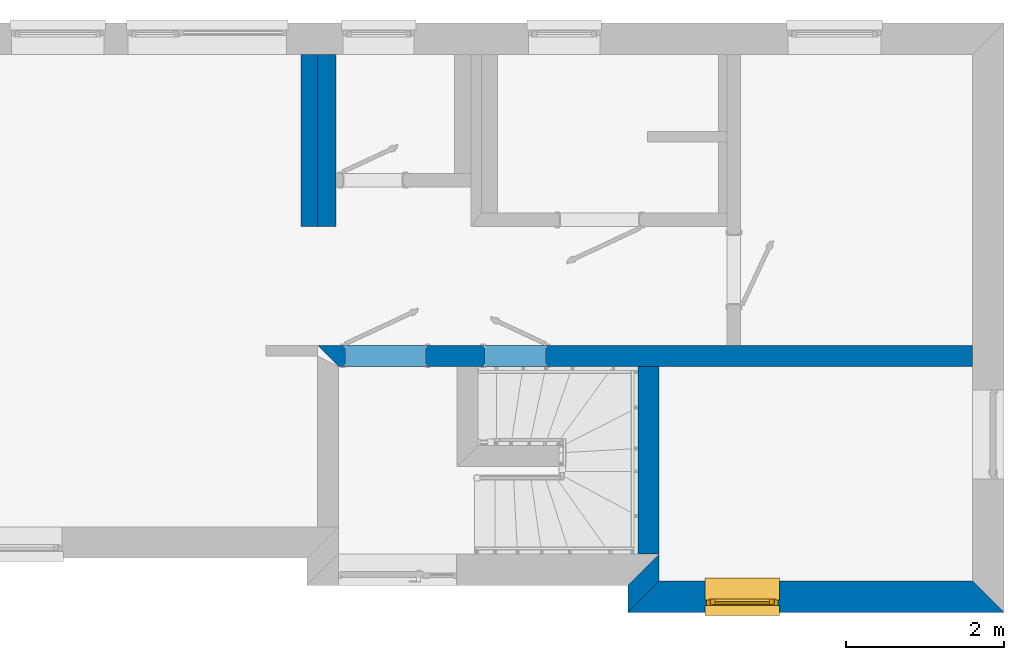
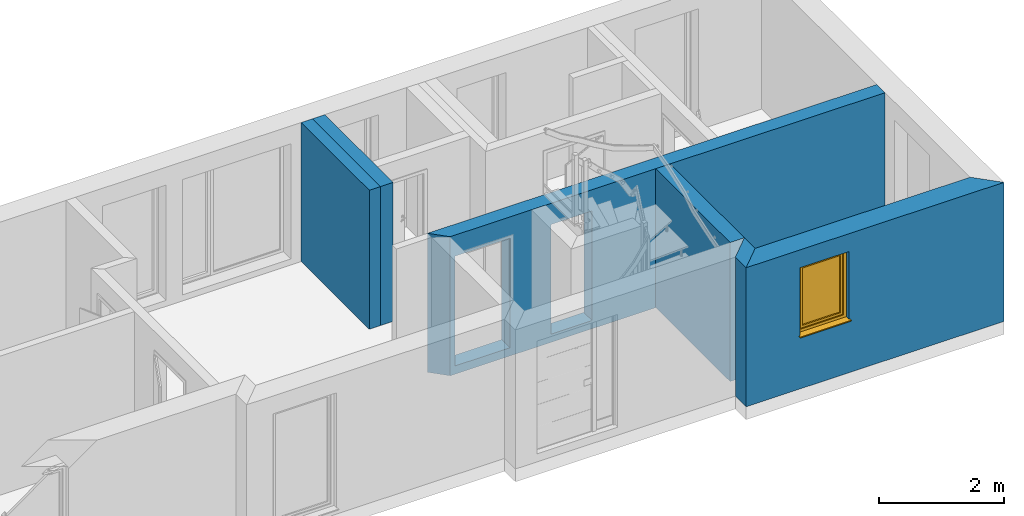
# One storey, part 5 of 13: 6 walls, 1 window, 3 openings.
"""IFC2X3 building model written with IfcOpenShell, lengths in millimetres."""

from ifc_helpers import new_model, si_unit, frame, origin_with_axes, place, context, project, spatial, faceted_brep, material, layer, layer_set, layer_usage, type_object, element, fill, save


model = new_model("IFC2X3")

# Units and contexts
model_context = context("Model", 3, world=origin_with_axes())
ifc_project = project(units=[si_unit("LENGTHUNIT", "METRE", prefix="MILLI")], contexts=[model_context])

# Site, building, storey
site_placement = place(None, origin_with_axes())
site = spatial("IfcSite", under=ifc_project, at=site_placement, Name="Site", CompositionType="ELEMENT")
building_placement = place(site_placement, origin_with_axes())
building = spatial("IfcBuilding", under=site, at=building_placement, Name="?", CompositionType="ELEMENT")
storey_placement = place(building_placement, origin_with_axes())
storey = spatial("IfcBuildingStorey", under=building, at=storey_placement, Name="Erdgeschoß", CompositionType="ELEMENT", Elevation=0.0)

# Wall, opening, window
ifc_material_1 = material(Name="Material_AW")
ifc_layer_1 = layer(ifc_material_1, 395.0, ventilated=False)
ifc_layer_set_1 = layer_set([ifc_layer_1], Name="MaterialLayerSet_AW")
ifc_layer_usage_1 = layer_usage(ifc_layer_set_1, "AXIS2", "NEGATIVE", 197.5)
wall_1_placement = place(storey_placement, frame((18102.5, -7242.5, 0.0), z_axis=(0.0, 0.0, 1.0), x_axis=(-1.0, 0.0, 0.0)))
wall_1 = element("IfcWall", 1, at=wall_1_placement, inside=storey, material=ifc_layer_usage_1, Name="AW-03", context=model_context, shape_type="Brep", body=[
    faceted_brep([(4157.49996012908, -197.5, 0.0), (4157.49996012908, -197.5, 2707.0), (197.5, -197.5, 2707.0), (197.5, -197.5, 0.0), (4552.49996012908, 197.5, 0.0), (4552.49996012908, 197.5, 150.0), (4552.49996012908, 197.5, 2707.0), (4157.49996012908, -197.5, 2707.0), (4157.49996012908, -197.5, 0.0), (-197.499034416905, 197.5, 0.0), (-197.499034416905, 197.5, 150.0), (4552.49996012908, 197.5, 150.0), (4552.49996012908, 197.5, 0.0), (-197.499034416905, 197.5, 150.0), (-197.499034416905, 197.5, 2707.0), (4552.49996012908, 197.5, 2707.0), (4552.49996012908, 197.5, 150.0), (197.5, -197.5, 0.0), (197.5, -197.5, 2707.0), (-197.499034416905, 197.5, 2707.0), (-197.499034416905, 197.5, 150.0), (-197.499034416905, 197.5, 0.0), (197.5, -197.5, 0.0), (-197.499034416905, 197.5, 0.0), (4552.49996012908, 197.5, 0.0), (4157.49996012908, -197.5, 0.0), (-197.499034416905, 197.5, 2707.0), (197.5, -197.5, 2707.0), (4157.49996012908, -197.5, 2707.0), (4552.49996012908, 197.5, 2707.0)], [[[0, 1, 2, 3]], [[4, 5, 6, 7, 8]], [[9, 10, 11, 12]], [[13, 14, 15, 16]], [[17, 18, 19, 20, 21]], [[22, 23, 24, 25]], [[26, 27, 28, 29]]]),
])
opening_1_placement = place(wall_1_placement, frame((2657.5, 0.0, 1040.0), z_axis=(0.0, 0.0, 1.0), x_axis=(1.0, 0.0, 0.0)))
opening_1 = element("IfcOpeningElement", 2, at=opening_1_placement, cuts=wall_1, Name="AW-03|FE06", context=model_context, shape_type="Brep", body=[
    faceted_brep([(0.0, 207.5, 0.0), (0.0, 207.5, 1320.0), (900.0, 207.5, 1320.0), (900.0, 207.5, 0.0), (0.0, -207.5, 0.0), (0.0, -207.5, 1320.0), (0.0, 207.5, 1320.0), (0.0, 207.5, 0.0), (900.0, -207.5, 0.0), (0.0, -207.5, 0.0), (0.0, 207.5, 0.0), (900.0, 207.5, 0.0), (900.0, -207.5, 1320.0), (900.0, -207.5, 0.0), (900.0, 207.5, 0.0), (900.0, 207.5, 1320.0), (0.0, -207.5, 1320.0), (900.0, -207.5, 1320.0), (900.0, 207.5, 1320.0), (0.0, 207.5, 1320.0), (0.0, -207.5, 0.0), (900.0, -207.5, 0.0), (900.0, -207.5, 1320.0), (0.0, -207.5, 1320.0)], [[[0, 1, 2, 3]], [[4, 5, 6, 7]], [[8, 9, 10, 11]], [[12, 13, 14, 15]], [[16, 17, 18, 19]], [[20, 21, 22, 23]]]),
])
window_style = type_object("IfcWindowStyle", Name="FE06", ConstructionType="NOTDEFINED", OperationType="SINGLE_PANEL", ParameterTakesPrecedence=True, Sizeable=False)
window_placement = place(opening_1_placement, frame((900.0, 77.5, 0.0), z_axis=(0.0, 0.0, 1.0), x_axis=(-1.0, 0.0, 0.0)))
window = element("IfcWindow", 3, at=window_placement, inside=storey, type_object=window_style, Name="FE06", OverallHeight=1320.0, OverallWidth=900.0, context=model_context, shape_type="Brep", body=[
    faceted_brep([(0.0, -36.0, 0.0), (900.0, -36.0, 0.0), (885.0, -36.0, 15.0), (15.0, -36.0, 15.0), (15.0, 36.0, 15.0), (885.0, 36.0, 15.0), (900.0, 36.0, 0.0), (0.0, 36.0, 0.0), (0.0, 36.0, 0.0), (900.0, 36.0, 0.0), (900.0, -36.0, 0.0), (0.0, -36.0, 0.0), (900.0, -36.0, 0.0), (900.0, -36.0, 1320.0), (885.0, -36.0, 1305.0), (885.0, -36.0, 15.0), (885.0, 36.0, 14.999755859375), (885.0, 36.0, 1304.99975585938), (900.0, 36.0, 1319.99975585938), (900.0, 36.0, -0.000244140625), (900.0, 36.0, 0.0), (900.0, 36.0, 1320.0), (900.0, -36.0, 1320.0), (900.0, -36.0, 0.0), (900.0, -36.0, 1320.0), (0.0, -36.0, 1320.0), (15.0, -36.0, 1305.0), (885.0, -36.0, 1305.0), (885.0, 36.0, 1305.0), (15.0, 36.0, 1305.0), (0.0, 36.0, 1320.0), (900.0, 36.0, 1320.0), (900.0, 36.0, 1320.0), (0.0, 36.0, 1320.0), (0.0, -36.0, 1320.0), (900.0, -36.0, 1320.0), (0.0, -36.0, 1320.0), (0.0, -36.0, 0.0), (15.0, -36.0, 15.0), (15.0, -36.0, 1305.0), (15.0, 36.0, 1305.00024414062), (15.0, 36.0, 15.000244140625), (0.0, 36.0, 0.000244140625), (0.0, 36.0, 1320.00024414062), (0.0, 36.0, 1320.0), (0.0, 36.0, 0.0), (0.0, -36.0, 0.0), (0.0, -36.0, 1320.0), (885.0, 36.0, 15.0), (15.0, 36.0, 15.0), (43.0, 36.0, 43.0), (857.0, 36.0, 43.0), (857.0, 36.0, 43.0), (43.0, 36.0, 43.0), (43.0, -21.0, 43.0), (857.0, -21.0, 43.0), (857.000000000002, -21.0, 43.0), (43.0000000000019, -21.0, 43.0), (60.0000000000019, -21.0004882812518, 60.0000000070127), (840.000000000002, -21.0004882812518, 60.0000000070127), (840.0009765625, -21.0, 60.0), (60.0009765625, -21.0, 60.0), (60.0009765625, -25.0, 60.0), (840.0009765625, -25.0, 60.0), (840.0009765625, -25.0, 60.0), (60.0009765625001, -25.0, 60.0), (53.0009765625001, -36.0014646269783, 52.9991454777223), (847.0009765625, -36.0014646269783, 52.9991454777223), (847.0, -36.0, 53.0), (53.0, -36.0, 53.0), (15.0, -36.0, 15.0), (885.0, -36.0, 15.0), (885.0, 36.0, 1305.0), (885.0, 36.0, 15.0), (857.0, 36.0, 43.0), (857.0, 36.0, 1277.0), (857.0, 36.0, 1277.00024414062), (857.0, 36.0, 43.000244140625), (857.0, -21.0, 43.000244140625), (857.0, -21.0, 1277.00024414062), (857.0, -21.0, 1277.00024414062), (857.0, -21.0, 43.000244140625), (840.0, -21.0, 60.000244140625), (840.0, -21.0, 1260.00024414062), (840.0, -21.0, 1259.99926757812), (840.0, -21.0, 59.999267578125), (840.0, -25.0, 59.999267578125), (840.0, -25.0, 1259.99926757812), (840.0, -25.0, 1259.99926757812), (840.0, -25.0, 59.9992675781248), (847.001953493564, -36.0009766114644, 52.9992675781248), (847.001953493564, -36.0009766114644, 1266.99926757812), (847.0, -36.0, 1267.0), (847.0, -36.0, 53.0), (885.0, -36.0, 15.0), (885.0, -36.0, 1305.0), (15.0, 36.0, 1305.0), (885.0, 36.0, 1305.0), (857.0, 36.0, 1277.0), (43.0, 36.0, 1277.0), (43.0, 36.0, 1277.0), (857.0, 36.0, 1277.0), (857.0, -21.0, 1277.0), (43.0, -21.0, 1277.0), (43.0000000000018, -21.0, 1277.0), (857.000000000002, -21.0, 1277.0), (840.000000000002, -21.0004882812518, 1259.99999999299), (60.0000000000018, -21.0004882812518, 1259.99999999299), (59.9990234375, -21.0, 1260.0), (839.9990234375, -21.0, 1260.0), (839.9990234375, -25.0, 1260.0), (59.9990234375, -25.0, 1260.0), (59.9990234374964, -25.0, 1260.0), (839.999023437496, -25.0, 1260.0), (846.999023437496, -36.0014647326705, 1267.00097675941), (52.9990234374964, -36.0014647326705, 1267.00097675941), (53.0, -36.0, 1267.0), (847.0, -36.0, 1267.0), (885.0, -36.0, 1305.0), (15.0, -36.0, 1305.0), (15.0, 36.0, 15.0), (15.0, 36.0, 1305.0), (43.0, 36.0, 1277.0), (43.0, 36.0, 43.0), (43.0, 36.0, 43.0010986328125), (43.0, 36.0, 1277.0009765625), (43.0, -21.0, 1277.0009765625), (43.0, -21.0, 43.0010986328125), (43.0, -21.0, 43.0010986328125), (43.0, -21.0, 1277.0009765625), (60.0, -21.0, 1260.0009765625), (60.0, -21.0, 60.0010986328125), (60.0, -21.0, 60.000732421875), (60.0, -21.0, 1260.00073242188), (60.0009765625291, -25.0000001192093, 1260.00073242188), (60.0009765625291, -25.0000001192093, 60.000732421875), (60.0, -25.0, 60.000732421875), (60.0, -25.0, 1260.00073242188), (52.9990236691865, -36.0009765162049, 1267.00073242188), (52.9990236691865, -36.0009765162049, 53.000732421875), (53.0, -36.0, 53.0001220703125), (53.0, -36.0, 1267.0), (15.0, -36.0, 1305.0), (15.0, -36.0, 15.0001220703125), (867.0, 52.0, 33.0), (33.0, 52.0, 33.0), (96.0, 52.0, 96.0), (804.0, 52.0, 96.0), (804.0, 52.0, 96.0), (96.0, 52.0, 96.0), (110.0, 19.9985349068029, 110.000610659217), (790.0, 19.9985349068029, 110.000610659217), (789.999999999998, 20.0, 110.0), (109.999999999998, 20.0, 110.0), (102.999999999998, 19.9995117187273, 102.99999998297), (796.999999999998, 19.9995117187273, 102.99999998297), (797.0009765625, 20.0, 103.0), (103.0009765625, 20.0, 103.0), (103.0009765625, -4.0, 103.0), (797.0009765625, -4.0, 103.0), (797.0009765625, -4.0, 103.0), (103.0009765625, -4.0, 103.0), (110.0009765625, -4.0, 110.0), (790.0009765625, -4.0, 110.0), (790.000000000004, -3.9999999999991, 110.0), (110.000000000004, -3.9999999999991, 110.0), (102.000000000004, -21.0014648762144, 101.999511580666), (798.000000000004, -21.0014648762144, 101.999511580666), (798.0009765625, -21.0, 102.0), (102.0009765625, -21.0, 102.0), (51.0009765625, -21.0, 51.0), (849.0009765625, -21.0, 51.0), (849.0009765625, -21.0, 51.0), (51.0009765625, -21.0, 51.0), (51.0009765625, 36.0, 51.0), (849.0009765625, 36.0, 51.0), (849.0009765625, 36.0, 51.0), (51.0009765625, 36.0, 51.0), (33.0009765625, 36.0, 33.0), (867.0009765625, 36.0, 33.0), (867.0, 36.0, 33.0), (33.0, 36.0, 33.0), (33.0, 52.0, 33.0), (867.0, 52.0, 33.0), (867.0, 52.0, 1287.00024414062), (867.0, 52.0, 33.000244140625), (804.0, 52.0, 96.000244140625), (804.0, 52.0, 1224.00024414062), (804.0, 52.0, 1224.00024414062), (804.0, 52.0, 96.0002441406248), (789.999023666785, 19.9990226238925, 110.000244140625), (789.999023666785, 19.9990226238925, 1210.00024414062), (790.0, 20.0, 1210.00024414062), (790.0, 20.0, 110.000244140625), (797.0, 20.0, 103.000244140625), (797.0, 20.0, 1217.00024414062), (797.0, 20.0, 1216.99951171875), (797.0, 20.0, 102.99951171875), (796.999023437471, -4.00000001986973, 102.99951171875), (796.999023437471, -4.00000001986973, 1216.99951171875), (797.0, -4.0, 1216.99951171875), (797.0, -4.0, 102.99951171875), (790.0, -4.0, 109.99951171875), (790.0, -4.0, 1209.99951171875), (790.0, -4.0, 1210.00024414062), (790.0, -4.0, 110.000244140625), (798.001952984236, -21.0009765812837, 102.000244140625), (798.001952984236, -21.0009765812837, 1218.00024414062), (798.0, -21.0, 1217.99951171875), (798.0, -21.0, 101.99951171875), (849.0, -21.0, 50.99951171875), (849.0, -21.0, 1268.99951171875), (849.0, -21.0, 1268.99951171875), (849.0, -21.0, 50.9995117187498), (849.000976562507, 36.0000000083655, 50.9995117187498), (849.000976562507, 36.0000000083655, 1268.99951171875), (849.0, 36.0, 1268.99951171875), (849.0, 36.0, 50.99951171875), (867.0, 36.0, 32.99951171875), (867.0, 36.0, 1286.99951171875), (867.0, 36.0, 1287.00024414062), (867.0, 36.0, 33.000244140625), (867.0, 52.0, 33.000244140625), (867.0, 52.0, 1287.00024414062), (33.0, 52.0, 1287.0), (867.0, 52.0, 1287.0), (804.0, 52.0, 1224.0), (96.0, 52.0, 1224.0), (95.9999999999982, 52.0, 1224.0), (803.999999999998, 52.0, 1224.0), (789.999999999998, 19.9985360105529, 1209.99951201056), (109.999999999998, 19.9985360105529, 1209.99951201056), (110.0, 20.0, 1210.0), (790.0, 20.0, 1210.0), (797.0, 20.0, 1217.0), (103.0, 20.0, 1217.0), (102.9990234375, 20.0, 1217.0), (796.9990234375, 20.0, 1217.0), (796.9990234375, -4.0, 1217.0), (102.9990234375, -4.0, 1217.0), (102.9990234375, -4.0, 1217.0), (796.9990234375, -4.0, 1217.0), (789.9990234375, -4.0, 1210.0), (109.9990234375, -4.0, 1210.0), (110.000000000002, -4.0, 1210.0), (790.000000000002, -4.0, 1210.0), (798.000000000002, -21.0014648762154, 1218.00048841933), (102.000000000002, -21.0014648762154, 1218.00048841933), (101.9990234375, -21.0, 1218.0), (797.9990234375, -21.0, 1218.0), (848.9990234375, -21.0, 1269.0), (50.9990234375, -21.0, 1269.0), (50.9990234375, -21.0, 1269.0), (848.9990234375, -21.0, 1269.0), (848.9990234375, 36.0, 1269.0), (50.9990234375, 36.0, 1269.0), (50.9990234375, 36.0, 1269.0), (848.9990234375, 36.0, 1269.0), (866.9990234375, 36.0, 1287.0), (32.9990234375, 36.0, 1287.0), (33.0, 36.0, 1287.0), (867.0, 36.0, 1287.0), (867.0, 52.0, 1287.0), (33.0, 52.0, 1287.0), (33.0, 52.0, 33.0010986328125), (33.0, 52.0, 1287.0009765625), (96.0, 52.0, 1224.0009765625), (96.0, 52.0, 96.0010986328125), (96.0, 52.0, 95.9998779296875), (96.0, 52.0, 1224.0), (110.000976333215, 19.9990226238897, 1210.0), (110.000976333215, 19.9990226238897, 109.999877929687), (110.0, 20.0, 110.001098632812), (110.0, 20.0, 1210.0009765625), (103.0, 20.0, 1217.0009765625), (103.0, 20.0, 103.001098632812), (103.0, 20.0, 103.00048828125), (103.0, 20.0, 1217.00048828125), (103.0, -4.0, 1217.00048828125), (103.0, -4.0, 103.00048828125), (103.0, -4.0, 103.00048828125), (103.0, -4.0, 1217.00048828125), (110.0, -4.0, 1210.00048828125), (110.0, -4.0, 110.00048828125), (110.0, -4.0, 110.001098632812), (110.0, -4.0, 1210.0009765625), (101.999023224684, -21.0014648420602, 1218.0009765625), (101.999023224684, -21.0014648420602, 102.001098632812), (102.0, -21.0, 102.000610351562), (102.0, -21.0, 1218.00048828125), (51.0, -21.0, 1269.00048828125), (51.0, -21.0, 51.0006103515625), (51.0, -21.0, 51.00048828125), (51.0, -21.0, 1269.00048828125), (51.0, 36.0, 1269.00048828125), (51.0, 36.0, 51.00048828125), (51.0, 36.0, 51.00048828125), (51.0, 36.0, 1269.00048828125), (33.0, 36.0, 1287.00048828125), (33.0, 36.0, 33.00048828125), (33.0, 36.0, 33.0010986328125), (33.0, 36.0, 1287.0009765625), (33.0, 52.0, 1287.0009765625), (33.0, 52.0, 33.0010986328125), (110.0, 20.0, 110.0), (110.0, 20.0, 1210.0), (790.0, 20.0, 1210.0), (790.0, 20.0, 110.0), (110.0, -4.0, 110.0), (790.0, -4.0, 110.0), (790.0, -4.0, 1210.0), (110.0, -4.0, 1210.0), (-20.0, -36.0, 0.5), (-20.0, -160.0, 0.5), (920.0, -160.0, 0.5), (920.0, -36.0, 0.5), (-20.0, -36.0, -19.5), (-20.0, -36.0, 0.5), (920.0, -36.0, 0.5), (920.0, -36.0, -19.5), (-20.0, -160.0, -19.5), (-20.0, -36.0, -19.5), (920.0, -36.0, -19.5), (920.0, -160.0, -19.5), (-20.0, -160.0, 0.5), (-20.0, -160.0, -19.5), (920.0, -160.0, -19.5), (920.0, -160.0, 0.5), (-20.0, -160.0, -19.5), (-20.0, -160.0, 0.5), (-20.0, -36.0, 0.5), (-20.0, -36.0, -19.5), (920.0, -160.0, 0.5), (920.0, -160.0, -19.5), (920.0, -36.0, -19.5), (920.0, -36.0, 0.5), (-20.0, 36.0, -19.5), (-20.0, 315.0, -19.5), (920.0, 315.0, -19.5), (920.0, 36.0, -19.5), (-20.0, 36.0, 0.5), (-20.0, 36.0, -19.5), (920.0, 36.0, -19.5), (920.0, 36.0, 0.5), (-20.0, 315.0, 0.5), (-20.0, 36.0, 0.5), (920.0, 36.0, 0.5), (920.0, 315.0, 0.5), (-20.0, 315.0, -19.5), (-20.0, 315.0, 0.5), (920.0, 315.0, 0.5), (920.0, 315.0, -19.5), (-20.0, 315.0, 0.5), (-20.0, 315.0, -19.5), (-20.0, 36.0, -19.5), (-20.0, 36.0, 0.5), (920.0, 315.0, -19.5), (920.0, 315.0, 0.5), (920.0, 36.0, 0.5), (920.0, 36.0, -19.5)], [[[0, 1, 2, 3]], [[4, 5, 6, 7]], [[8, 9, 10, 11]], [[12, 13, 14, 15]], [[16, 17, 18, 19]], [[20, 21, 22, 23]], [[24, 25, 26, 27]], [[28, 29, 30, 31]], [[32, 33, 34, 35]], [[36, 37, 38, 39]], [[40, 41, 42, 43]], [[44, 45, 46, 47]], [[48, 49, 50, 51]], [[52, 53, 54, 55]], [[56, 57, 58, 59]], [[60, 61, 62, 63]], [[64, 65, 66, 67]], [[68, 69, 70, 71]], [[72, 73, 74, 75]], [[76, 77, 78, 79]], [[80, 81, 82, 83]], [[84, 85, 86, 87]], [[88, 89, 90, 91]], [[92, 93, 94, 95]], [[96, 97, 98, 99]], [[100, 101, 102, 103]], [[104, 105, 106, 107]], [[108, 109, 110, 111]], [[112, 113, 114, 115]], [[116, 117, 118, 119]], [[120, 121, 122, 123]], [[124, 125, 126, 127]], [[128, 129, 130, 131]], [[132, 133, 134, 135]], [[136, 137, 138, 139]], [[140, 141, 142, 143]], [[144, 145, 146, 147]], [[148, 149, 150, 151]], [[152, 153, 154, 155]], [[156, 157, 158, 159]], [[160, 161, 162, 163]], [[164, 165, 166, 167]], [[168, 169, 170, 171]], [[172, 173, 174, 175]], [[176, 177, 178, 179]], [[180, 181, 182, 183]], [[184, 185, 186, 187]], [[188, 189, 190, 191]], [[192, 193, 194, 195]], [[196, 197, 198, 199]], [[200, 201, 202, 203]], [[204, 205, 206, 207]], [[208, 209, 210, 211]], [[212, 213, 214, 215]], [[216, 217, 218, 219]], [[220, 221, 222, 223]], [[224, 225, 226, 227]], [[228, 229, 230, 231]], [[232, 233, 234, 235]], [[236, 237, 238, 239]], [[240, 241, 242, 243]], [[244, 245, 246, 247]], [[248, 249, 250, 251]], [[252, 253, 254, 255]], [[256, 257, 258, 259]], [[260, 261, 262, 263]], [[264, 265, 266, 267]], [[268, 269, 270, 271]], [[272, 273, 274, 275]], [[276, 277, 278, 279]], [[280, 281, 282, 283]], [[284, 285, 286, 287]], [[288, 289, 290, 291]], [[292, 293, 294, 295]], [[296, 297, 298, 299]], [[300, 301, 302, 303]], [[304, 305, 306, 307]], [[308, 309, 310, 311]], [[312, 313, 314, 315]], [[316, 317, 318, 319]], [[320, 321, 322, 323]], [[324, 325, 326, 327]], [[328, 329, 330, 331]], [[332, 333, 334, 335]], [[336, 337, 338, 339]], [[340, 341, 342, 343]], [[344, 345, 346, 347]], [[348, 349, 350, 351]], [[352, 353, 354, 355]], [[356, 357, 358, 359]]]),
])
fill(opening_1, window)

# Walls
wall_2_placement = place(storey_placement, frame((13747.5, -7242.5, 0.0), z_axis=(0.0, 0.0, 1.0), x_axis=(0.0, 1.0, 0.0)))
element("IfcWall", 4, at=wall_2_placement, inside=storey, material=ifc_layer_usage_1, Name="AW-04", context=model_context, shape_type="Brep", body=[
    faceted_brep([(539.500007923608, -197.5, 0.0), (539.500007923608, -197.5, 2707.0), (197.5, -197.5, 2707.0), (197.5, -197.5, 0.0), (144.500007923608, 197.5, 0.0), (144.500007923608, 197.5, 150.0), (144.500007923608, 197.5, 2707.0), (539.500007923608, -197.5, 2707.0), (539.500007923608, -197.5, 0.0), (-197.5, 197.5, 0.0), (-197.5, 197.5, 150.0), (144.500007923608, 197.5, 150.0), (144.500007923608, 197.5, 0.0), (-197.5, 197.5, 150.0), (-197.5, 197.5, 2707.0), (144.500007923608, 197.5, 2707.0), (144.500007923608, 197.5, 150.0), (197.5, -197.5, 0.0), (197.5, -197.5, 2707.0), (-197.5, 197.5, 2707.0), (-197.5, 197.5, 150.0), (-197.5, 197.5, 0.0), (197.5, -197.5, 0.0), (-197.5, 197.5, 0.0), (144.500007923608, 197.5, 0.0), (539.500007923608, -197.5, 0.0), (-197.5, 197.5, 2707.0), (197.5, -197.5, 2707.0), (539.500007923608, -197.5, 2707.0), (144.500007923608, 197.5, 2707.0)], [[[0, 1, 2, 3]], [[4, 5, 6, 7, 8]], [[9, 10, 11, 12]], [[13, 14, 15, 16]], [[17, 18, 19, 20, 21]], [[22, 23, 24, 25]], [[26, 27, 28, 29]]]),
])
ifc_material_2 = material(Name="Material_IW")
ifc_layer_2 = layer(ifc_material_2, 264.0, ventilated=False)
ifc_layer_set_2 = layer_set([ifc_layer_2], Name="MaterialLayerSet_IW")
ifc_layer_usage_2 = layer_usage(ifc_layer_set_2, "AXIS2", "NEGATIVE", 132.0)
wall_3_placement = place(storey_placement, frame((13813.0, -6703.0, 0.0), z_axis=(0.0, 0.0, 1.0), x_axis=(0.0, 1.0, 0.0)))
element("IfcWall", 5, at=wall_3_placement, inside=storey, material=ifc_layer_usage_2, Name="IW-02", context=model_context, shape_type="Brep", body=[
    faceted_brep([(2370.0, -132.0, 0.0), (2370.0, -132.0, 2707.0), (0.0, -132.0, 2707.0), (0.0, -132.0, 0.0), (2370.0, 132.0, 0.0), (2370.0, 132.0, 2707.0), (2370.0, -132.0, 2707.0), (2370.0, -132.0, 0.0), (0.0, 132.0, 0.0), (0.0, 132.0, 2707.0), (2370.0, 132.0, 2707.0), (2370.0, 132.0, 0.0), (0.0, -132.0, 0.0), (0.0, -132.0, 2707.0), (0.0, 132.0, 2707.0), (0.0, 132.0, 0.0), (0.0, -132.0, 0.0), (0.0, 132.0, 0.0), (2370.0, 132.0, 0.0), (2370.0, -132.0, 0.0), (0.0, -132.0, 2707.0), (2370.0, -132.0, 2707.0), (2370.0, 132.0, 2707.0), (0.0, 132.0, 2707.0)], [[[0, 1, 2, 3]], [[4, 5, 6, 7]], [[8, 9, 10, 11]], [[12, 13, 14, 15]], [[16, 17, 18, 19]], [[20, 21, 22, 23]]]),
])

# Wall, openings
wall_4_placement = place(storey_placement, frame((9763.0, -4201.0, 0.0), z_axis=(0.0, 0.0, 1.0), x_axis=(1.0, 0.0, 0.0)))
wall_4 = element("IfcWall", 6, at=wall_4_placement, inside=storey, material=ifc_layer_usage_2, Name="IW-03", context=model_context, shape_type="Brep", body=[
    faceted_brep([(8142.0, -132.0, 0.0), (8142.0, -132.0, 2707.0), (132.0, -132.0, 2707.0), (132.0, -132.0, 0.0), (8142.0, 132.0, 0.0), (8142.0, 132.0, 2707.0), (8142.0, -132.0, 2707.0), (8142.0, -132.0, 0.0), (-131.999755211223, 132.0, 0.0), (-131.999755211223, 132.0, 2707.0), (8142.0, 132.0, 2707.0), (8142.0, 132.0, 0.0), (132.0, -132.0, 0.0), (132.0, -132.0, 2707.0), (-131.999755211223, 132.0, 2707.0), (-131.999755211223, 132.0, 0.0), (132.0, -132.0, 0.0), (-131.999755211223, 132.0, 0.0), (8142.0, 132.0, 0.0), (8142.0, -132.0, 0.0), (132.0, -132.0, 2707.0), (8142.0, -132.0, 2707.0), (8142.0, 132.0, 2707.0), (-131.999755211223, 132.0, 2707.0)], [[[0, 1, 2, 3]], [[4, 5, 6, 7]], [[8, 9, 10, 11]], [[12, 13, 14, 15]], [[16, 17, 18, 19]], [[20, 21, 22, 23]]]),
])
opening_2_placement = place(wall_4_placement, frame((1986.0, 0.0, 160.0), z_axis=(0.0, 0.0, 1.0), x_axis=(1.0, 0.0, 0.0)))
element("IfcOpeningElement", 7, at=opening_2_placement, cuts=wall_4, Name="IW-03|IT02", context=model_context, shape_type="Brep", body=[
    faceted_brep([(0.0, 142.0, 0.0), (0.0, 142.0, 2135.0), (760.0, 142.0, 2135.0), (760.0, 142.0, 0.0), (0.0, -142.0, 0.0), (0.0, -142.0, 2135.0), (0.0, 142.0, 2135.0), (0.0, 142.0, 0.0), (760.0, -142.0, 0.0), (0.0, -142.0, 0.0), (0.0, 142.0, 0.0), (760.0, 142.0, 0.0), (760.0, -142.0, 2135.0), (760.0, -142.0, 0.0), (760.0, 142.0, 0.0), (760.0, 142.0, 2135.0), (0.0, -142.0, 2135.0), (760.0, -142.0, 2135.0), (760.0, 142.0, 2135.0), (0.0, 142.0, 2135.0), (0.0, -142.0, 0.0), (760.0, -142.0, 0.0), (760.0, -142.0, 2135.0), (0.0, -142.0, 2135.0)], [[[0, 1, 2, 3]], [[4, 5, 6, 7]], [[8, 9, 10, 11]], [[12, 13, 14, 15]], [[16, 17, 18, 19]], [[20, 21, 22, 23]]]),
])
opening_3_placement = place(wall_4_placement, frame((222.0, 0.0, 160.0), z_axis=(0.0, 0.0, 1.0), x_axis=(1.0, 0.0, 0.0)))
element("IfcOpeningElement", 8, at=opening_3_placement, cuts=wall_4, Name="IW-03|IT01", context=model_context, shape_type="Brep", body=[
    faceted_brep([(0.0, 142.0, 0.0), (0.0, 142.0, 2135.0), (1010.0, 142.0, 2135.0), (1010.0, 142.0, 0.0), (0.0, -142.0, 0.0), (0.0, -142.0, 2135.0), (0.0, 142.0, 2135.0), (0.0, 142.0, 0.0), (1010.0, -142.0, 0.0), (0.0, -142.0, 0.0), (0.0, 142.0, 0.0), (1010.0, 142.0, 0.0), (1010.0, -142.0, 2135.0), (1010.0, -142.0, 0.0), (1010.0, 142.0, 0.0), (1010.0, 142.0, 2135.0), (0.0, -142.0, 2135.0), (1010.0, -142.0, 2135.0), (1010.0, 142.0, 2135.0), (0.0, 142.0, 2135.0), (0.0, -142.0, 0.0), (1010.0, -142.0, 0.0), (1010.0, -142.0, 2135.0), (0.0, -142.0, 2135.0)], [[[0, 1, 2, 3]], [[4, 5, 6, 7]], [[8, 9, 10, 11]], [[12, 13, 14, 15]], [[16, 17, 18, 19]], [[20, 21, 22, 23]]]),
])

# Walls
ifc_layer_3 = layer(ifc_material_2, 232.0, ventilated=False)
ifc_layer_set_3 = layer_set([ifc_layer_3], Name="MaterialLayerSet_IW")
ifc_layer_usage_3 = layer_usage(ifc_layer_set_3, "AXIS2", "NEGATIVE", 116.0)
wall_5_placement = place(storey_placement, frame((9747.0, -395.0, 0.0), z_axis=(0.0, 0.0, 1.0), x_axis=(0.0, -1.0, 0.0)))
element("IfcWall", 9, at=wall_5_placement, inside=storey, material=ifc_layer_usage_3, Name="IW-06", context=model_context, shape_type="Brep", body=[
    faceted_brep([(2174.0, -116.0, 0.0), (2174.0, -116.0, 2707.0), (0.0, -116.0, 2707.0), (0.0, -116.0, 0.0), (2174.0, 116.0, 0.0), (2174.0, 116.0, 2707.0), (2174.0, -116.0, 2707.0), (2174.0, -116.0, 0.0), (0.0, 116.0, 0.0), (0.0, 116.0, 2707.0), (2174.0, 116.0, 2707.0), (2174.0, 116.0, 0.0), (0.0, -116.0, 0.0), (0.0, -116.0, 2707.0), (0.0, 116.0, 2707.0), (0.0, 116.0, 0.0), (0.0, -116.0, 0.0), (0.0, 116.0, 0.0), (2174.0, 116.0, 0.0), (2174.0, -116.0, 0.0), (0.0, -116.0, 2707.0), (2174.0, -116.0, 2707.0), (2174.0, 116.0, 2707.0), (0.0, 116.0, 2707.0)], [[[0, 1, 2, 3]], [[4, 5, 6, 7]], [[8, 9, 10, 11]], [[12, 13, 14, 15]], [[16, 17, 18, 19]], [[20, 21, 22, 23]]]),
])
ifc_layer_4 = layer(ifc_material_2, 206.0, ventilated=False)
ifc_layer_set_4 = layer_set([ifc_layer_4], Name="MaterialLayerSet_IW")
ifc_layer_usage_4 = layer_usage(ifc_layer_set_4, "AXIS2", "NEGATIVE", 103.0)
wall_6_placement = place(storey_placement, frame((9528.0, -395.0, 0.0), z_axis=(0.0, 0.0, 1.0), x_axis=(0.0, -1.0, 0.0)))
element("IfcWall", 10, at=wall_6_placement, inside=storey, material=ifc_layer_usage_4, Name="IW-21", context=model_context, shape_type="Brep", body=[
    faceted_brep([(2174.0, -103.0, 0.0), (2174.0, -103.0, 2707.0), (0.0, -103.0, 2707.0), (0.0, -103.0, 0.0), (2174.0, 103.0, 0.0), (2174.0, 103.0, 2707.0), (2174.0, -103.0, 2707.0), (2174.0, -103.0, 0.0), (0.0, 103.0, 0.0), (0.0, 103.0, 2707.0), (2174.0, 103.0, 2707.0), (2174.0, 103.0, 0.0), (0.0, -103.0, 0.0), (0.0, -103.0, 2707.0), (0.0, 103.0, 2707.0), (0.0, 103.0, 0.0), (0.0, -103.0, 0.0), (0.0, 103.0, 0.0), (2174.0, 103.0, 0.0), (2174.0, -103.0, 0.0), (0.0, -103.0, 2707.0), (2174.0, -103.0, 2707.0), (2174.0, 103.0, 2707.0), (0.0, 103.0, 2707.0)], [[[0, 1, 2, 3]], [[4, 5, 6, 7]], [[8, 9, 10, 11]], [[12, 13, 14, 15]], [[16, 17, 18, 19]], [[20, 21, 22, 23]]]),
])

save(model, "model.ifc")
